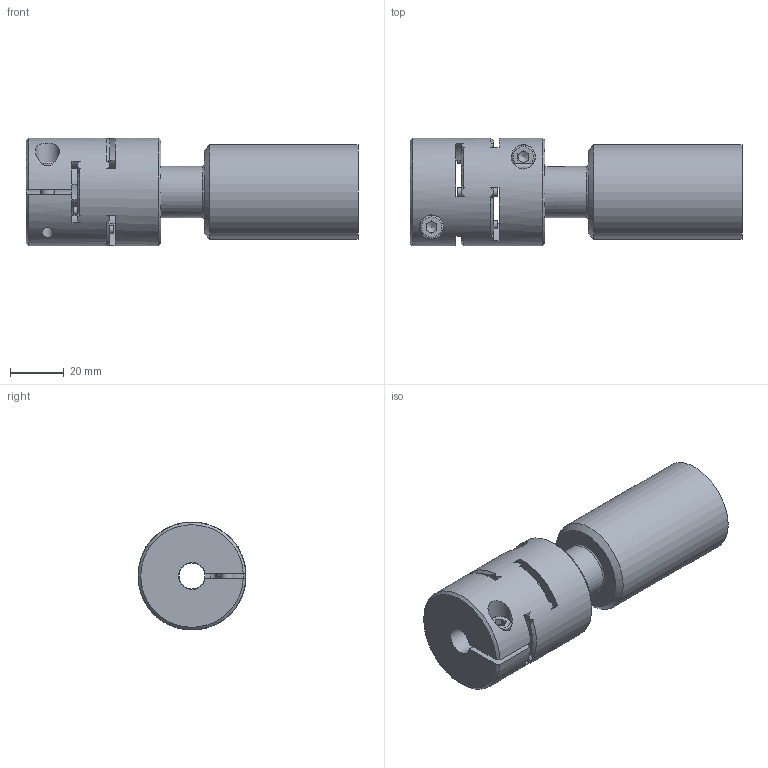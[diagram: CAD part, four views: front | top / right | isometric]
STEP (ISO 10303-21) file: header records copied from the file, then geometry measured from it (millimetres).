
FILE_DESCRIPTION( ( 'Unknown' ), '1' );
FILE_NAME( 'F:/JAKOB-STEP+IGES-Dateien/STEP-Dateien/EKZ/EKZ 20.stp', 'Unknown', ( 'Unknown' ), ( 'Unknown' ), 'PSStep 10.1', 'Unknown', ' ' );
FILE_SCHEMA( ( 'AUTOMOTIVE_DESIGN { 1 0 10303 214 1 1 1 1 }' ) );
Length unit declared in the file: millimetre
Products named in the file (1): EKZ 20 Rohr
Bounding box: 123 x 39.98 x 40 mm (x, y, z)
Volume: 77059.2 mm3; surface area: 30303 mm2
Topology: 1 solids, 1 shells, 200 faces, 549 edges, 354 vertices
Faces by surface type: cylinder 76, plane 60, cone 59, torus 5
Full cylindrical faces by diameter (mm): 3 x6, 4.2 x2, 5 x2, 5.4 x1, 5.5 x1, 8.5 x2, 9 x2, 9.5 x1, 10 x1, 18 x2, 19 x1, 22 x1, 30 x1, 35 x1, 40 x1
Entity records: 8292 total; most frequent: CARTESIAN_POINT 1832, DIRECTION 1016, ORIENTED_EDGE 978, EDGE_CURVE 489, AXIS2_PLACEMENT_3D 427, VERTEX_POINT 335, EDGE_LOOP 270, FACE_OUTER_BOUND 230
